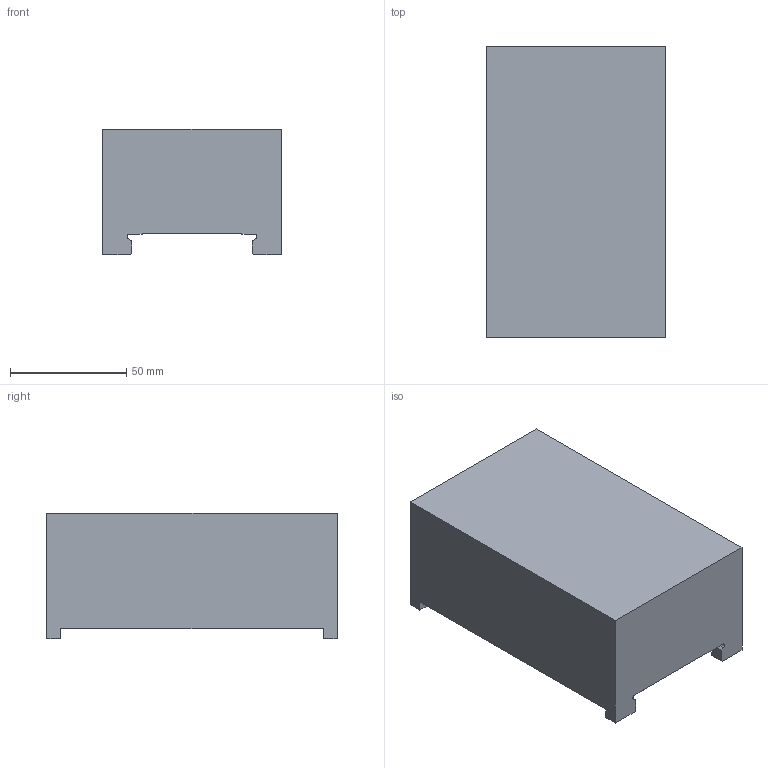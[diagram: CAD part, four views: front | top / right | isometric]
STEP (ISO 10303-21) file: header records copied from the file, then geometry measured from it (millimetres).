
FILE_DESCRIPTION (( 'STEP AP203' ), '1' );
FILE_NAME ('682420-54-c-Kundenmodell.STEP', '2020-10-05T13:35:13', ( '' ), ( '' ), 'SwSTEP 2.0', 'SolidWorks 2018', '' );
FILE_SCHEMA (( 'CONFIG_CONTROL_DESIGN' ));
Length unit declared in the file: millimetre
Products named in the file (2): 682420-54-c-Kundenmodell
Bounding box: 77 x 125 x 54 mm (x, y, z)
Volume: 447924.7 mm3; surface area: 41164.9 mm2
Topology: 1 solids, 1 shells, 40 faces, 114 edges, 76 vertices
Faces by surface type: plane 30, cylinder 10
Entity records: 1445 total; most frequent: CARTESIAN_POINT 256, ORIENTED_EDGE 228, DIRECTION 202, EDGE_CURVE 114, LINE 94, VECTOR 94, VERTEX_POINT 76, AXIS2_PLACEMENT_3D 54
